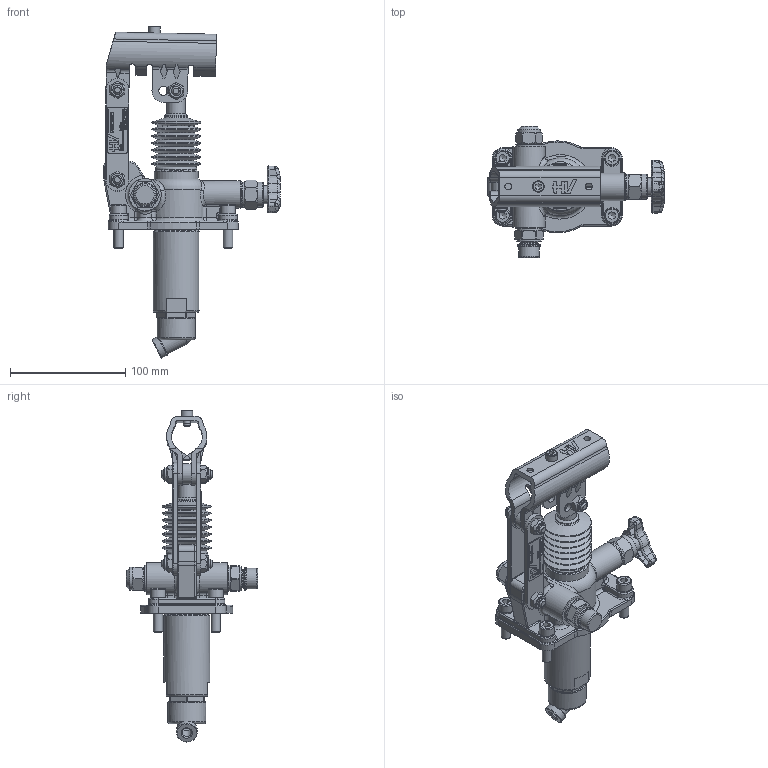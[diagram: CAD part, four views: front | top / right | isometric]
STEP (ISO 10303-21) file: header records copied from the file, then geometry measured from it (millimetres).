
FILE_DESCRIPTION((''),'2;1');
FILE_NAME('G:\HV_HYDRAULIC\AZIENDA_HV_HYDRAULIC\ARCHIVIO_DISEGNI\5_PRODOTTI_FINITI\1_POMPE_MANUALI\6052_PM_45\6052.0117_PM_45_byB-s_(HV)\6052.0117.stp','2024-02-28T13:57:09',('christian.scardovi'),(''),'Autodesk Inventor 2013','Autodesk Inventor 2013','');
FILE_SCHEMA(('AUTOMOTIVE_DESIGN { 1 0 10303 214 1 1 1 1 }'));
Length unit declared in the file: millimetre
Products named in the file (1): 6052.0117
Bounding box: 153.5 x 114 x 288.31 mm (x, y, z)
Volume: 428195.7 mm3; surface area: 129942.9 mm2
Topology: 3 solids, 3 shells, 1695 faces, 4252 edges, 2656 vertices
Faces by surface type: plane 759, cylinder 345, bspline 268, cone 157, torus 149, sphere 17
Full cylindrical faces by diameter (mm): 5 x6, 6 x4, 6.5 x2, 8 x15, 9 x2, 9.2 x1, 10 x3, 10.376 x1, 11.05 x6, 12 x5, 13 x4, 13.2 x1, 14 x4, 14.95 x4, 16 x4, 16.6 x3, 17 x1, 18 x5, 20 x4, 21 x2, 21.6 x1, 21.8 x2, 22 x2, 23 x3, 24 x2, 26.5 x1, 27 x1, 28 x1, 29 x1, 30 x2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
Entity records: 58629 total; most frequent: CARTESIAN_POINT 19521, ORIENTED_EDGE 7874, DIRECTION 7163, EDGE_CURVE 3937, AXIS2_PLACEMENT_3D 2587, VERTEX_POINT 2583, EDGE_LOOP 2056, VECTOR 1989
